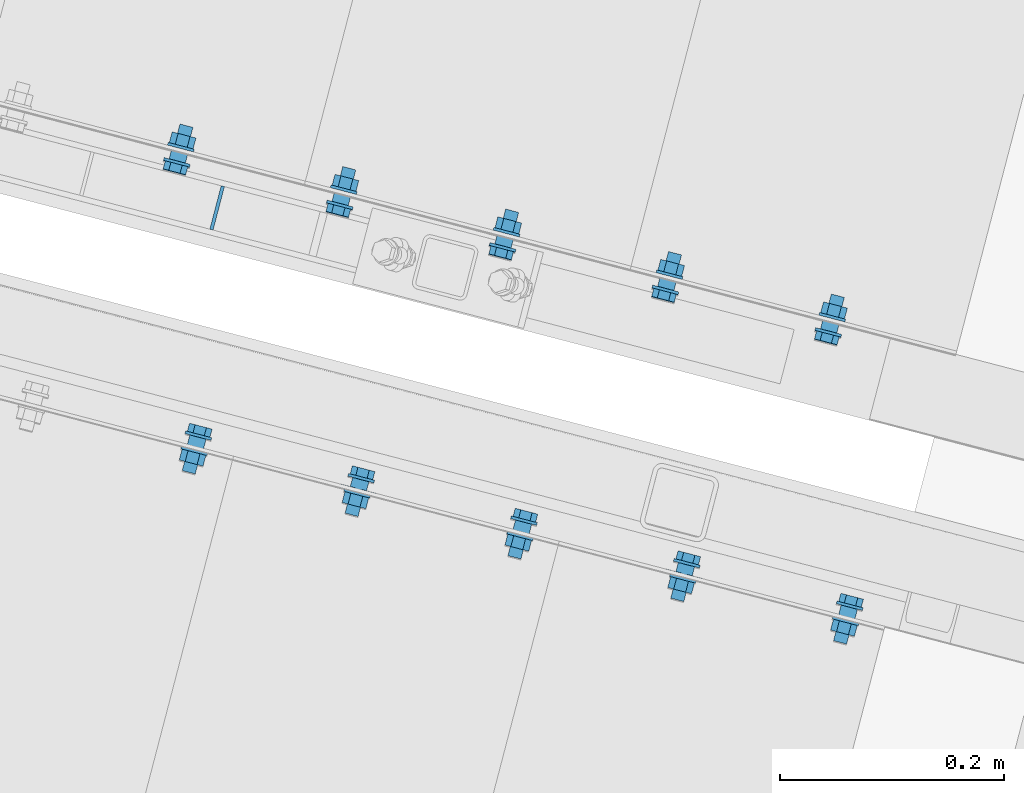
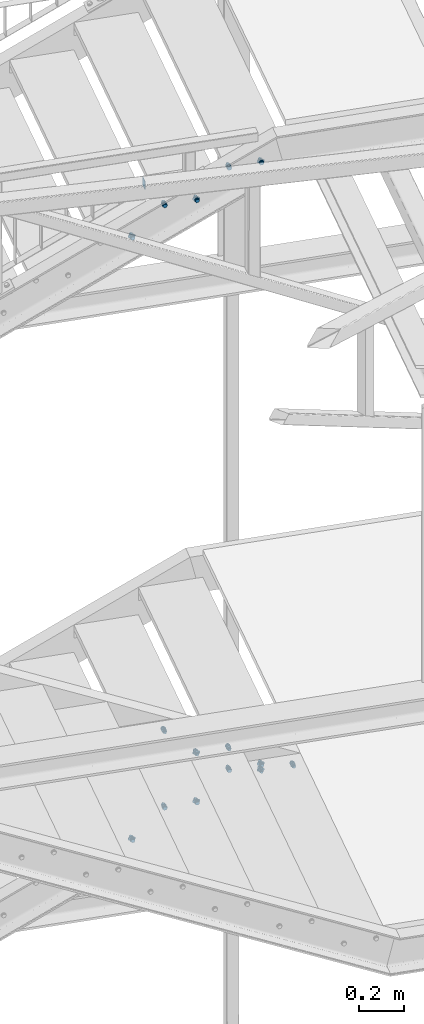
# One storey, part 144 of 169: 15 mechanical fasteners, 1 discrete accessory, 10 elements without a shape of their own.
"""IFC2X3 building model written with IfcOpenShell, lengths in millimetres."""

from ifc_helpers import new_model, si_unit, frame, frame_2d, origin_with_axes, origin_2d_with_axis, place, context, subcontext, project, spatial, polyline, circle_curve, parameter, trimmed, segment, composite_curve, circle, outline, extrude, clip, halfspace, source, transform, mapped, material, type_object, element, aggregate, save


model = new_model("IFC2X3")

# Units and contexts
model_context = context("Model", 3, precision=1e-05, world=origin_with_axes())
body_context = subcontext(model_context, "Body", "Model", "MODEL_VIEW")
ifc_project = project(units=[si_unit("LENGTHUNIT", "METRE", prefix="MILLI"), si_unit("AREAUNIT", "SQUARE_METRE"), si_unit("VOLUMEUNIT", "CUBIC_METRE"), si_unit("MASSUNIT", "GRAM", prefix="KILO"), si_unit("TIMEUNIT", "SECOND"), si_unit("PLANEANGLEUNIT", "RADIAN"), si_unit("SOLIDANGLEUNIT", "STERADIAN"), si_unit("THERMODYNAMICTEMPERATUREUNIT", "DEGREE_CELSIUS"), si_unit("LUMINOUSINTENSITYUNIT", "LUMEN")], contexts=[model_context])

# Site, building, storey
site_placement = place(None, origin_with_axes())
site = spatial("IfcSite", under=ifc_project, at=site_placement, Name="Undefined", CompositionType="ELEMENT")
building_placement = place(site_placement, origin_with_axes())
building = spatial("IfcBuilding", under=site, at=building_placement, Name="Undefined", CompositionType="ELEMENT")
storey_placement = place(building_placement, origin_with_axes())
storey = spatial("IfcBuildingStorey", under=building, at=storey_placement, Name="Undefined", CompositionType="ELEMENT", Elevation=0.0)

# Assembly, discrete accessory
assembly_1_placement = place(storey_placement, origin_with_axes())
assembly_1 = element("IfcElementAssembly", 1, at=assembly_1_placement, inside=storey, Name="Steel Assembly", AssemblyPlace="NOTDEFINED", PredefinedType="RIGID_FRAME")
ifc_material_1 = material(Name="STEEL/S235")
discrete_accessory_type_1 = type_object("IfcDiscreteAccessoryType", Name="PORĘCZ")
discrete_accessory_placement = place(assembly_1_placement, frame((-25384.8434200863, 6706.99141486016, 13867.1970313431), z_axis=(-0.967563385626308, 0.252628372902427, -1.72000000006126e-07), x_axis=(-3.45692487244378e-05, -0.000132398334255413, -0.999999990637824)))
discrete_accessory = element("IfcDiscreteAccessory", 2, at=discrete_accessory_placement, type_object=discrete_accessory_type_1, material=ifc_material_1, Name="PORĘCZ", ObjectType="BL40*3", context=body_context, shape_type="Clipping", body=[
    clip(clip(extrude(outline(polyline([(53.3229491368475, 20.000000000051), (53.3229488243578, -19.9999999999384), (8.49999989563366, -19.9999999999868), (8.50000020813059, 20.0000000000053), (53.3229491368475, 20.000000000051)])), frame((1.81898940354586e-12, -1.77635442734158e-15, -1.50000000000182), z_axis=(0.0, 0.0, 1.0), x_axis=(1.0, 0.0, 0.0)), (0.0, 0.0, 1.0), 3.0), halfspace(frame((8.50000786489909, 999.99999999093, -1.53340806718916e-08), z_axis=(1.0, 0.0, 0.0), x_axis=(-2.54700353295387e-10, 0.0, -1.0)), True)), halfspace(frame((53.6583669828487, 1000.0000000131, 0.670820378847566), z_axis=(-0.89442719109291, -3.87067713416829e-10, 0.44721359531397), x_axis=(0.44721359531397, 3.3177479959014e-10, 0.89442719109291)), True)),
])
aggregate(assembly_1, [discrete_accessory])

# Assembly, mechanical fastener
assembly_2_placement = place(storey_placement, origin_with_axes())
assembly_2 = element("IfcElementAssembly", 3, at=assembly_2_placement, inside=storey, Name="Steel Assembly", AssemblyPlace="NOTDEFINED", PredefinedType="RIGID_FRAME")
ifc_material_2 = material(Name="Undefined")
discrete_accessory_type_2 = type_object("IfcDiscreteAccessoryType", Name="Bolt assembly")
shared_shape_1 = source(origin_with_axes(), body_context, "Body", "SweptSolid", [
    extrude(circle(Radius=7.5, at=origin_2d_with_axis()), frame((0.0, -8.39999975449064, 0.0), z_axis=(0.0, 1.0, 0.0), x_axis=(1.0, 0.0, 0.0)), (0.0, 0.0, 1.0), 8.5),
    extrude(circle(Radius=7.5, at=origin_2d_with_axis()), frame((0.0, -0.100000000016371, 0.0), z_axis=(0.0, 1.0, 0.0), x_axis=(1.0, 0.0, 0.0)), (0.0, 0.0, 1.0), 3.1),
    extrude(outline(polyline([(10.39230484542, 0.0), (5.19615242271, 9.00000000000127), (-5.19615242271, 9.00000000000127), (-10.39230484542, 0.0), (-5.19615242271, -9.00000000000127), (5.19615242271, -9.00000000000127), (10.39230484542, 0.0)])), frame((0.0, -18.4999993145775, 0.0), z_axis=(0.0, 1.0, 0.0), x_axis=(1.0, 0.0, 0.0)), (0.0, 0.0, 1.0), 7.5),
    extrude(circle(Radius=6.0, at=origin_2d_with_axis()), frame((0.0, -10.9999999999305, 0.0), z_axis=(0.0, 1.0, 0.0), x_axis=(1.0, 0.0, 0.0)), (0.0, 0.0, 1.0), 35.0),
    extrude(circle(Radius=12.0, at=origin_2d_with_axis()), frame((0.0, -10.9999999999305, 0.0), z_axis=(0.0, 1.0, 0.0), x_axis=(1.0, 0.0, 0.0)), (0.0, 0.0, 1.0), 2.5),
    extrude(circle(Radius=12.0, at=origin_2d_with_axis()), frame((0.0, 2.99999999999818, 0.0), z_axis=(0.0, 1.0, 0.0), x_axis=(1.0, 0.0, 0.0)), (0.0, 0.0, 1.0), 2.5),
    extrude(outline(polyline([(10.96965511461, 0.0), (5.484827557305, 9.50000000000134), (-5.484827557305, 9.50000000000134), (-10.96965511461, 0.0), (-5.484827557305, -9.50000000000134), (5.484827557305, -9.50000000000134), (10.96965511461, 0.0)])), frame((0.0, 5.50000000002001, 0.0), z_axis=(0.0, 1.0, 0.0), x_axis=(1.0, 0.0, 0.0)), (0.0, 0.0, 1.0), 10.0),
])
mechanical_fastener_1_placement = place(assembly_2_placement, frame((-24726.4188173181, 6576.44240962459, 13850.0957858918), z_axis=(-2.54700353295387e-10, 0.0, -1.0), x_axis=(-0.967580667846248, 0.252562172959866, 0.0)))
mechanical_fastener_1 = element("IfcMechanicalFastener", 4, at=mechanical_fastener_1_placement, type_object=discrete_accessory_type_2, material=ifc_material_2, Name="Bolt assembly", NominalDiameter=12.0, NominalLength=35.0, context=body_context, shape_type="MappedRepresentation", body=[
    mapped(shared_shape_1, transform((264.999998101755, 3.26144800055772e-09, 24.9999997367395))),
])

assembly_3_placement = place(storey_placement, origin_with_axes())
assembly_3 = element("IfcElementAssembly", 5, at=assembly_3_placement, inside=storey, Name="Steel Assembly", AssemblyPlace="NOTDEFINED", PredefinedType="RIGID_FRAME")
mechanical_fastener_2_placement = place(assembly_3_placement, frame((-25016.6930210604, 6652.21106243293, 13700.0957858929), z_axis=(-2.54700353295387e-10, 0.0, -1.0), x_axis=(-0.967580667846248, 0.252562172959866, 0.0)))
mechanical_fastener_2 = element("IfcMechanicalFastener", 6, at=mechanical_fastener_2_placement, type_object=discrete_accessory_type_2, material=ifc_material_2, Name="Bolt assembly", NominalDiameter=12.0, NominalLength=35.0, context=body_context, shape_type="MappedRepresentation", body=[
    mapped(shared_shape_1, transform((264.999998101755, 3.26144800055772e-09, 24.9999997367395))),
])

assembly_4_placement = place(storey_placement, origin_with_axes())
assembly_4 = element("IfcElementAssembly", 7, at=assembly_4_placement, inside=storey, Name="Steel Assembly", AssemblyPlace="NOTDEFINED", PredefinedType="RIGID_FRAME")
mechanical_fastener_3_placement = place(assembly_4_placement, frame((-25660.4815070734, 6561.5397834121, 11000.3215824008), z_axis=(-2.54700353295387e-10, 0.0, -1.0), x_axis=(0.96754609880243, -0.252694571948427, 0.0)))
mechanical_fastener_3 = element("IfcMechanicalFastener", 8, at=mechanical_fastener_3_placement, type_object=discrete_accessory_type_2, material=ifc_material_2, Name="Bolt assembly", NominalDiameter=12.0, NominalLength=35.0, context=body_context, shape_type="MappedRepresentation", body=[
    mapped(shared_shape_1, transform((264.999998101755, 3.26144800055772e-09, 24.9999997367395))),
])
aggregate(assembly_4, [mechanical_fastener_3])

assembly_5_placement = place(storey_placement, origin_with_axes())
assembly_5 = element("IfcElementAssembly", 9, at=assembly_5_placement, inside=storey, Name="Steel Assembly", AssemblyPlace="NOTDEFINED", PredefinedType="RIGID_FRAME")
mechanical_fastener_4_placement = place(assembly_5_placement, frame((-25370.2176740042, 6485.73141105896, 10850.3215823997), z_axis=(-2.54700353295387e-10, 0.0, -1.0), x_axis=(0.96754609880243, -0.252694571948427, 0.0)))
mechanical_fastener_4 = element("IfcMechanicalFastener", 10, at=mechanical_fastener_4_placement, type_object=discrete_accessory_type_2, material=ifc_material_2, Name="Bolt assembly", NominalDiameter=12.0, NominalLength=35.0, context=body_context, shape_type="MappedRepresentation", body=[
    mapped(shared_shape_1, transform((264.999998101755, 3.26144800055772e-09, 24.9999997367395))),
])

assembly_6_placement = place(storey_placement, origin_with_axes())
assembly_6 = element("IfcElementAssembly", 11, at=assembly_6_placement, inside=storey, Name="Steel Assembly", AssemblyPlace="NOTDEFINED", PredefinedType="RIGID_FRAME")
mechanical_fastener_5_placement = place(assembly_6_placement, frame((-25079.9538409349, 6409.92303870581, 10700.3215823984), z_axis=(-2.54700353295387e-10, 0.0, -1.0), x_axis=(0.96754609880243, -0.252694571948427, 0.0)))
mechanical_fastener_5 = element("IfcMechanicalFastener", 12, at=mechanical_fastener_5_placement, type_object=discrete_accessory_type_2, material=ifc_material_2, Name="Bolt assembly", NominalDiameter=12.0, NominalLength=35.0, context=body_context, shape_type="MappedRepresentation", body=[
    mapped(shared_shape_1, transform((264.999998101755, 3.26144800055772e-09, 24.9999997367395))),
])

assembly_7_placement = place(storey_placement, origin_with_axes())
assembly_7 = element("IfcElementAssembly", 13, at=assembly_7_placement, inside=storey, Name="Steel Assembly", AssemblyPlace="NOTDEFINED", PredefinedType="RIGID_FRAME")
mechanical_fastener_6_placement = place(assembly_7_placement, frame((-24726.5328946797, 6576.00549464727, 10550.0958168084), z_axis=(-2.54700353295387e-10, 0.0, -1.0), x_axis=(-0.967580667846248, 0.252562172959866, 0.0)))
mechanical_fastener_6 = element("IfcMechanicalFastener", 14, at=mechanical_fastener_6_placement, type_object=discrete_accessory_type_2, material=ifc_material_2, Name="Bolt assembly", NominalDiameter=12.0, NominalLength=35.0, context=body_context, shape_type="MappedRepresentation", body=[
    mapped(shared_shape_1, transform((264.999998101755, 3.26144800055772e-09, 24.9999997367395))),
])

assembly_8_placement = place(storey_placement, origin_with_axes())
assembly_8 = element("IfcElementAssembly", 15, at=assembly_8_placement, inside=storey, Name="Steel Assembly", AssemblyPlace="NOTDEFINED", PredefinedType="RIGID_FRAME")
mechanical_fastener_7_placement = place(assembly_8_placement, frame((-25016.8070984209, 6651.77414745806, 10400.0958168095), z_axis=(-2.54700353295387e-10, 0.0, -1.0), x_axis=(-0.967580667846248, 0.252562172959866, 0.0)))
mechanical_fastener_7 = element("IfcMechanicalFastener", 16, at=mechanical_fastener_7_placement, type_object=discrete_accessory_type_2, material=ifc_material_2, Name="Bolt assembly", NominalDiameter=12.0, NominalLength=35.0, context=body_context, shape_type="MappedRepresentation", body=[
    mapped(shared_shape_1, transform((264.999998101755, 3.26144800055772e-09, 24.9999997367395))),
])

# Mechanical fastener
shared_shape_2 = source(origin_with_axes(), body_context, "Body", "SweptSolid", [
    extrude(circle(Radius=7.5, at=origin_2d_with_axis()), frame((0.0, -8.39999975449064, 0.0), z_axis=(0.0, 1.0, 0.0), x_axis=(1.0, 0.0, 0.0)), (0.0, 0.0, 1.0), 8.5),
    extrude(outline(composite_curve([segment(polyline([(-10.0, 7.5), (10.0, 7.5)]), True, "CONTINUOUS"), segment(trimmed(circle_curve(frame_2d((10.0, 0.0), x_axis=(0.0, 1.0)), 7.5), [parameter(0.0)], [parameter(3.14159265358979)], False, "PARAMETER"), True, "CONTINUOUS"), segment(polyline([(10.0, -7.5), (-10.0, -7.5)]), True, "CONTINUOUS"), segment(trimmed(circle_curve(frame_2d((-10.0, 0.0), x_axis=(0.0, -1.0)), 7.5), [parameter(0.0)], [parameter(3.14159265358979)], False, "PARAMETER"), True, "DISCONTINUOUS")], self_intersect=False)), frame((0.0, -0.100000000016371, 0.0), z_axis=(0.0, 1.0, 0.0), x_axis=(1.0, 0.0, 0.0)), (0.0, 0.0, 1.0), 3.1),
    extrude(outline(polyline([(10.39230484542, 0.0), (5.19615242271, 9.00000000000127), (-5.19615242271, 9.00000000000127), (-10.39230484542, 0.0), (-5.19615242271, -9.00000000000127), (5.19615242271, -9.00000000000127), (10.39230484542, 0.0)])), frame((0.0, -18.4999993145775, 0.0), z_axis=(0.0, 1.0, 0.0), x_axis=(1.0, 0.0, 0.0)), (0.0, 0.0, 1.0), 7.5),
    extrude(circle(Radius=6.0, at=origin_2d_with_axis()), frame((0.0, -10.9999999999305, 0.0), z_axis=(0.0, 1.0, 0.0), x_axis=(1.0, 0.0, 0.0)), (0.0, 0.0, 1.0), 35.0),
    extrude(circle(Radius=12.0, at=origin_2d_with_axis()), frame((0.0, -10.9999999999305, 0.0), z_axis=(0.0, 1.0, 0.0), x_axis=(1.0, 0.0, 0.0)), (0.0, 0.0, 1.0), 2.5),
    extrude(circle(Radius=12.0, at=origin_2d_with_axis()), frame((0.0, 2.99999999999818, 0.0), z_axis=(0.0, 1.0, 0.0), x_axis=(1.0, 0.0, 0.0)), (0.0, 0.0, 1.0), 2.5),
    extrude(outline(polyline([(10.96965511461, 0.0), (5.484827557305, 9.50000000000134), (-5.484827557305, 9.50000000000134), (-10.96965511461, 0.0), (-5.484827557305, -9.50000000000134), (5.484827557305, -9.50000000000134), (10.96965511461, 0.0)])), frame((0.0, 5.50000000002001, 0.0), z_axis=(0.0, 1.0, 0.0), x_axis=(1.0, 0.0, 0.0)), (0.0, 0.0, 1.0), 10.0),
])
mechanical_fastener_8_placement = place(assembly_2_placement, frame((-24726.4188173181, 6576.44240962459, 13850.0957858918), z_axis=(-2.54700353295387e-10, 0.0, -1.0), x_axis=(-0.967580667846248, 0.252562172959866, 0.0)))
mechanical_fastener_8 = element("IfcMechanicalFastener", 17, at=mechanical_fastener_8_placement, type_object=discrete_accessory_type_2, material=ifc_material_2, Name="Bolt assembly", NominalDiameter=12.0, NominalLength=35.0, context=body_context, shape_type="MappedRepresentation", body=[
    mapped(shared_shape_2, transform((115.000000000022, -4.04725142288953e-10, 25.0))),
])

aggregate(assembly_2, [mechanical_fastener_8, mechanical_fastener_1])

shared_shape_3 = source(origin_with_axes(), body_context, "Body", "SweptSolid", [
    extrude(circle(Radius=7.5, at=origin_2d_with_axis()), frame((0.0, -8.39999975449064, 0.0), z_axis=(0.0, 1.0, 0.0), x_axis=(1.0, 0.0, 0.0)), (0.0, 0.0, 1.0), 8.5),
    extrude(outline(composite_curve([segment(polyline([(-10.0, 7.5), (10.0, 7.5)]), True, "CONTINUOUS"), segment(trimmed(circle_curve(frame_2d((10.0, 0.0), x_axis=(0.0, 1.0)), 7.5), [parameter(0.0)], [parameter(3.14159265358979)], False, "PARAMETER"), True, "CONTINUOUS"), segment(polyline([(10.0, -7.5), (-10.0, -7.5)]), True, "CONTINUOUS"), segment(trimmed(circle_curve(frame_2d((-10.0, 0.0), x_axis=(0.0, -1.0)), 7.5), [parameter(0.0)], [parameter(3.14159265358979)], False, "PARAMETER"), True, "DISCONTINUOUS")], self_intersect=False)), frame((0.0, -0.100000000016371, 0.0), z_axis=(0.0, 1.0, 0.0), x_axis=(1.0, 0.0, 0.0)), (0.0, 0.0, 1.0), 3.1),
    extrude(outline(polyline([(10.39230484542, 0.0), (5.19615242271, 9.00000000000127), (-5.19615242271, 9.00000000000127), (-10.39230484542, 0.0), (-5.19615242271, -9.00000000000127), (5.19615242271, -9.00000000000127), (10.39230484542, 0.0)])), frame((0.0, -18.4999993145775, 0.0), z_axis=(0.0, 1.0, 0.0), x_axis=(1.0, 0.0, 0.0)), (0.0, 0.0, 1.0), 7.5),
    extrude(circle(Radius=6.0, at=origin_2d_with_axis()), frame((0.0, -10.9999999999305, 0.0), z_axis=(0.0, 1.0, 0.0), x_axis=(1.0, 0.0, 0.0)), (0.0, 0.0, 1.0), 35.0),
    extrude(circle(Radius=12.0, at=origin_2d_with_axis()), frame((0.0, -10.9999999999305, 0.0), z_axis=(0.0, 1.0, 0.0), x_axis=(1.0, 0.0, 0.0)), (0.0, 0.0, 1.0), 2.5),
    extrude(circle(Radius=12.0, at=origin_2d_with_axis()), frame((0.0, 2.99999999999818, 0.0), z_axis=(0.0, 1.0, 0.0), x_axis=(1.0, 0.0, 0.0)), (0.0, 0.0, 1.0), 2.5),
    extrude(outline(polyline([(10.96965511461, 0.0), (5.484827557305, 9.50000000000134), (-5.484827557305, 9.50000000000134), (-10.96965511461, 0.0), (-5.484827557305, -9.50000000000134), (5.484827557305, -9.50000000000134), (10.96965511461, 0.0)])), frame((0.0, 5.50000000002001, 0.0), z_axis=(0.0, 1.0, 0.0), x_axis=(1.0, 0.0, 0.0)), (0.0, 0.0, 1.0), 10.0),
])
mechanical_fastener_9_placement = place(assembly_3_placement, frame((-25016.6930210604, 6652.21106243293, 13700.0957858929), z_axis=(-2.54700353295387e-10, 0.0, -1.0), x_axis=(-0.967580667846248, 0.252562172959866, 0.0)))
mechanical_fastener_9 = element("IfcMechanicalFastener", 18, at=mechanical_fastener_9_placement, type_object=discrete_accessory_type_2, material=ifc_material_2, Name="Bolt assembly", NominalDiameter=12.0, NominalLength=35.0, context=body_context, shape_type="MappedRepresentation", body=[
    mapped(shared_shape_3, transform((115.000000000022, -4.04725142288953e-10, 25.0))),
])

aggregate(assembly_3, [mechanical_fastener_9, mechanical_fastener_2])

# Assembly, mechanical fastener
assembly_9_placement = place(storey_placement, origin_with_axes())
assembly_9 = element("IfcElementAssembly", 19, at=assembly_9_placement, inside=storey, Name="Steel Assembly", AssemblyPlace="NOTDEFINED", PredefinedType="RIGID_FRAME")
shared_shape_4 = source(origin_with_axes(), body_context, "Body", "SweptSolid", [
    extrude(circle(Radius=7.5, at=origin_2d_with_axis()), frame((0.0, -8.39999975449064, 0.0), z_axis=(0.0, 1.0, 0.0), x_axis=(1.0, 0.0, 0.0)), (0.0, 0.0, 1.0), 8.5),
    extrude(outline(composite_curve([segment(polyline([(-10.0, 7.5), (10.0, 7.5)]), True, "CONTINUOUS"), segment(trimmed(circle_curve(frame_2d((10.0, 0.0), x_axis=(0.0, 1.0)), 7.5), [parameter(0.0)], [parameter(3.14159265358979)], False, "PARAMETER"), True, "CONTINUOUS"), segment(polyline([(10.0, -7.5), (-10.0, -7.5)]), True, "CONTINUOUS"), segment(trimmed(circle_curve(frame_2d((-10.0, 0.0), x_axis=(0.0, -1.0)), 7.5), [parameter(0.0)], [parameter(3.14159265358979)], False, "PARAMETER"), True, "DISCONTINUOUS")], self_intersect=False)), frame((0.0, -0.100000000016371, 0.0), z_axis=(0.0, 1.0, 0.0), x_axis=(1.0, 0.0, 0.0)), (0.0, 0.0, 1.0), 3.1),
    extrude(outline(polyline([(10.39230484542, 0.0), (5.19615242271, 9.00000000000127), (-5.19615242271, 9.00000000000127), (-10.39230484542, 0.0), (-5.19615242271, -9.00000000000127), (5.19615242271, -9.00000000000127), (10.39230484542, 0.0)])), frame((0.0, -18.4999993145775, 0.0), z_axis=(0.0, 1.0, 0.0), x_axis=(1.0, 0.0, 0.0)), (0.0, 0.0, 1.0), 7.5),
    extrude(circle(Radius=6.0, at=origin_2d_with_axis()), frame((0.0, -10.9999999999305, 0.0), z_axis=(0.0, 1.0, 0.0), x_axis=(1.0, 0.0, 0.0)), (0.0, 0.0, 1.0), 35.0),
    extrude(circle(Radius=12.0, at=origin_2d_with_axis()), frame((0.0, -10.9999999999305, 0.0), z_axis=(0.0, 1.0, 0.0), x_axis=(1.0, 0.0, 0.0)), (0.0, 0.0, 1.0), 2.5),
    extrude(circle(Radius=12.0, at=origin_2d_with_axis()), frame((0.0, 2.99999999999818, 0.0), z_axis=(0.0, 1.0, 0.0), x_axis=(1.0, 0.0, 0.0)), (0.0, 0.0, 1.0), 2.5),
    extrude(outline(polyline([(10.96965511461, 0.0), (5.484827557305, 9.50000000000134), (-5.484827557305, 9.50000000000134), (-10.96965511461, 0.0), (-5.484827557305, -9.50000000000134), (5.484827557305, -9.50000000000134), (10.96965511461, 0.0)])), frame((0.0, 5.50000000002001, 0.0), z_axis=(0.0, 1.0, 0.0), x_axis=(1.0, 0.0, 0.0)), (0.0, 0.0, 1.0), 10.0),
])
mechanical_fastener_10_placement = place(assembly_9_placement, frame((-25306.9672248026, 6727.97971524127, 13550.0957858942), z_axis=(-2.54700353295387e-10, 0.0, -1.0), x_axis=(-0.967580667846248, 0.252562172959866, 0.0)))
mechanical_fastener_10 = element("IfcMechanicalFastener", 20, at=mechanical_fastener_10_placement, type_object=discrete_accessory_type_2, material=ifc_material_2, Name="Bolt assembly", NominalDiameter=12.0, NominalLength=35.0, context=body_context, shape_type="MappedRepresentation", body=[
    mapped(shared_shape_4, transform((115.000000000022, -4.04725142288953e-10, 25.0))),
])
aggregate(assembly_9, [mechanical_fastener_10])

# Mechanical fastener
shared_shape_5 = source(origin_with_axes(), body_context, "Body", "SweptSolid", [
    extrude(circle(Radius=7.5, at=origin_2d_with_axis()), frame((0.0, -8.39999975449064, 0.0), z_axis=(0.0, 1.0, 0.0), x_axis=(1.0, 0.0, 0.0)), (0.0, 0.0, 1.0), 8.5),
    extrude(outline(composite_curve([segment(polyline([(-10.0, 7.5), (10.0, 7.5)]), True, "CONTINUOUS"), segment(trimmed(circle_curve(frame_2d((10.0, 0.0), x_axis=(0.0, 1.0)), 7.5), [parameter(0.0)], [parameter(3.14159265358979)], False, "PARAMETER"), True, "CONTINUOUS"), segment(polyline([(10.0, -7.5), (-10.0, -7.5)]), True, "CONTINUOUS"), segment(trimmed(circle_curve(frame_2d((-10.0, 0.0), x_axis=(0.0, -1.0)), 7.5), [parameter(0.0)], [parameter(3.14159265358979)], False, "PARAMETER"), True, "DISCONTINUOUS")], self_intersect=False)), frame((0.0, -0.100000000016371, 0.0), z_axis=(0.0, 1.0, 0.0), x_axis=(1.0, 0.0, 0.0)), (0.0, 0.0, 1.0), 3.1),
    extrude(outline(polyline([(10.39230484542, 0.0), (5.19615242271, 9.00000000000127), (-5.19615242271, 9.00000000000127), (-10.39230484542, 0.0), (-5.19615242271, -9.00000000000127), (5.19615242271, -9.00000000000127), (10.39230484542, 0.0)])), frame((0.0, -18.4999993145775, 0.0), z_axis=(0.0, 1.0, 0.0), x_axis=(1.0, 0.0, 0.0)), (0.0, 0.0, 1.0), 7.5),
    extrude(circle(Radius=6.0, at=origin_2d_with_axis()), frame((0.0, -10.9999999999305, 0.0), z_axis=(0.0, 1.0, 0.0), x_axis=(1.0, 0.0, 0.0)), (0.0, 0.0, 1.0), 35.0),
    extrude(circle(Radius=12.0, at=origin_2d_with_axis()), frame((0.0, -10.9999999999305, 0.0), z_axis=(0.0, 1.0, 0.0), x_axis=(1.0, 0.0, 0.0)), (0.0, 0.0, 1.0), 2.5),
    extrude(circle(Radius=12.0, at=origin_2d_with_axis()), frame((0.0, 2.99999999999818, 0.0), z_axis=(0.0, 1.0, 0.0), x_axis=(1.0, 0.0, 0.0)), (0.0, 0.0, 1.0), 2.5),
    extrude(outline(polyline([(10.96965511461, 0.0), (5.484827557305, 9.50000000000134), (-5.484827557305, 9.50000000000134), (-10.96965511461, 0.0), (-5.484827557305, -9.50000000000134), (5.484827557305, -9.50000000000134), (10.96965511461, 0.0)])), frame((0.0, 5.50000000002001, 0.0), z_axis=(0.0, 1.0, 0.0), x_axis=(1.0, 0.0, 0.0)), (0.0, 0.0, 1.0), 10.0),
])
mechanical_fastener_11_placement = place(assembly_5_placement, frame((-25370.2176740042, 6485.73141105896, 10850.3215823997), z_axis=(-2.54700353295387e-10, 0.0, -1.0), x_axis=(0.96754609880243, -0.252694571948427, 0.0)))
mechanical_fastener_11 = element("IfcMechanicalFastener", 21, at=mechanical_fastener_11_placement, type_object=discrete_accessory_type_2, material=ifc_material_2, Name="Bolt assembly", NominalDiameter=12.0, NominalLength=35.0, context=body_context, shape_type="MappedRepresentation", body=[
    mapped(shared_shape_5, transform((115.000000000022, -4.04725142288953e-10, 25.0))),
])

aggregate(assembly_5, [mechanical_fastener_11, mechanical_fastener_4])

shared_shape_6 = source(origin_with_axes(), body_context, "Body", "SweptSolid", [
    extrude(circle(Radius=7.5, at=origin_2d_with_axis()), frame((0.0, -8.39999975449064, 0.0), z_axis=(0.0, 1.0, 0.0), x_axis=(1.0, 0.0, 0.0)), (0.0, 0.0, 1.0), 8.5),
    extrude(outline(composite_curve([segment(polyline([(-10.0, 7.5), (10.0, 7.5)]), True, "CONTINUOUS"), segment(trimmed(circle_curve(frame_2d((10.0, 0.0), x_axis=(0.0, 1.0)), 7.5), [parameter(0.0)], [parameter(3.14159265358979)], False, "PARAMETER"), True, "CONTINUOUS"), segment(polyline([(10.0, -7.5), (-10.0, -7.5)]), True, "CONTINUOUS"), segment(trimmed(circle_curve(frame_2d((-10.0, 0.0), x_axis=(0.0, -1.0)), 7.5), [parameter(0.0)], [parameter(3.14159265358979)], False, "PARAMETER"), True, "DISCONTINUOUS")], self_intersect=False)), frame((0.0, -0.100000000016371, 0.0), z_axis=(0.0, 1.0, 0.0), x_axis=(1.0, 0.0, 0.0)), (0.0, 0.0, 1.0), 3.1),
    extrude(outline(polyline([(10.39230484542, 0.0), (5.19615242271, 9.00000000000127), (-5.19615242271, 9.00000000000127), (-10.39230484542, 0.0), (-5.19615242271, -9.00000000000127), (5.19615242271, -9.00000000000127), (10.39230484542, 0.0)])), frame((0.0, -18.4999993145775, 0.0), z_axis=(0.0, 1.0, 0.0), x_axis=(1.0, 0.0, 0.0)), (0.0, 0.0, 1.0), 7.5),
    extrude(circle(Radius=6.0, at=origin_2d_with_axis()), frame((0.0, -10.9999999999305, 0.0), z_axis=(0.0, 1.0, 0.0), x_axis=(1.0, 0.0, 0.0)), (0.0, 0.0, 1.0), 35.0),
    extrude(circle(Radius=12.0, at=origin_2d_with_axis()), frame((0.0, -10.9999999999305, 0.0), z_axis=(0.0, 1.0, 0.0), x_axis=(1.0, 0.0, 0.0)), (0.0, 0.0, 1.0), 2.5),
    extrude(circle(Radius=12.0, at=origin_2d_with_axis()), frame((0.0, 2.99999999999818, 0.0), z_axis=(0.0, 1.0, 0.0), x_axis=(1.0, 0.0, 0.0)), (0.0, 0.0, 1.0), 2.5),
    extrude(outline(polyline([(10.96965511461, 0.0), (5.484827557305, 9.50000000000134), (-5.484827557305, 9.50000000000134), (-10.96965511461, 0.0), (-5.484827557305, -9.50000000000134), (5.484827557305, -9.50000000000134), (10.96965511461, 0.0)])), frame((0.0, 5.50000000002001, 0.0), z_axis=(0.0, 1.0, 0.0), x_axis=(1.0, 0.0, 0.0)), (0.0, 0.0, 1.0), 10.0),
])
mechanical_fastener_12_placement = place(assembly_6_placement, frame((-25079.9538409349, 6409.92303870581, 10700.3215823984), z_axis=(-2.54700353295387e-10, 0.0, -1.0), x_axis=(0.96754609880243, -0.252694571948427, 0.0)))
mechanical_fastener_12 = element("IfcMechanicalFastener", 22, at=mechanical_fastener_12_placement, type_object=discrete_accessory_type_2, material=ifc_material_2, Name="Bolt assembly", NominalDiameter=12.0, NominalLength=35.0, context=body_context, shape_type="MappedRepresentation", body=[
    mapped(shared_shape_6, transform((115.000000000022, -4.04725142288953e-10, 25.0))),
])

aggregate(assembly_6, [mechanical_fastener_12, mechanical_fastener_5])

shared_shape_7 = source(origin_with_axes(), body_context, "Body", "SweptSolid", [
    extrude(circle(Radius=7.5, at=origin_2d_with_axis()), frame((0.0, -8.39999975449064, 0.0), z_axis=(0.0, 1.0, 0.0), x_axis=(1.0, 0.0, 0.0)), (0.0, 0.0, 1.0), 8.5),
    extrude(outline(composite_curve([segment(polyline([(-10.0, 7.5), (10.0, 7.5)]), True, "CONTINUOUS"), segment(trimmed(circle_curve(frame_2d((10.0, 0.0), x_axis=(0.0, 1.0)), 7.5), [parameter(0.0)], [parameter(3.14159265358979)], False, "PARAMETER"), True, "CONTINUOUS"), segment(polyline([(10.0, -7.5), (-10.0, -7.5)]), True, "CONTINUOUS"), segment(trimmed(circle_curve(frame_2d((-10.0, 0.0), x_axis=(0.0, -1.0)), 7.5), [parameter(0.0)], [parameter(3.14159265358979)], False, "PARAMETER"), True, "DISCONTINUOUS")], self_intersect=False)), frame((0.0, -0.100000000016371, 0.0), z_axis=(0.0, 1.0, 0.0), x_axis=(1.0, 0.0, 0.0)), (0.0, 0.0, 1.0), 3.1),
    extrude(outline(polyline([(10.39230484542, 0.0), (5.19615242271, 9.00000000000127), (-5.19615242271, 9.00000000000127), (-10.39230484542, 0.0), (-5.19615242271, -9.00000000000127), (5.19615242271, -9.00000000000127), (10.39230484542, 0.0)])), frame((0.0, -18.4999993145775, 0.0), z_axis=(0.0, 1.0, 0.0), x_axis=(1.0, 0.0, 0.0)), (0.0, 0.0, 1.0), 7.5),
    extrude(circle(Radius=6.0, at=origin_2d_with_axis()), frame((0.0, -10.9999999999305, 0.0), z_axis=(0.0, 1.0, 0.0), x_axis=(1.0, 0.0, 0.0)), (0.0, 0.0, 1.0), 35.0),
    extrude(circle(Radius=12.0, at=origin_2d_with_axis()), frame((0.0, -10.9999999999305, 0.0), z_axis=(0.0, 1.0, 0.0), x_axis=(1.0, 0.0, 0.0)), (0.0, 0.0, 1.0), 2.5),
    extrude(circle(Radius=12.0, at=origin_2d_with_axis()), frame((0.0, 2.99999999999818, 0.0), z_axis=(0.0, 1.0, 0.0), x_axis=(1.0, 0.0, 0.0)), (0.0, 0.0, 1.0), 2.5),
    extrude(outline(polyline([(10.96965511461, 0.0), (5.484827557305, 9.50000000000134), (-5.484827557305, 9.50000000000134), (-10.96965511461, 0.0), (-5.484827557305, -9.50000000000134), (5.484827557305, -9.50000000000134), (10.96965511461, 0.0)])), frame((0.0, 5.50000000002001, 0.0), z_axis=(0.0, 1.0, 0.0), x_axis=(1.0, 0.0, 0.0)), (0.0, 0.0, 1.0), 10.0),
])
mechanical_fastener_13_placement = place(assembly_7_placement, frame((-24726.5328946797, 6576.00549464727, 10550.0958168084), z_axis=(-2.54700353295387e-10, 0.0, -1.0), x_axis=(-0.967580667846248, 0.252562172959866, 0.0)))
mechanical_fastener_13 = element("IfcMechanicalFastener", 23, at=mechanical_fastener_13_placement, type_object=discrete_accessory_type_2, material=ifc_material_2, Name="Bolt assembly", NominalDiameter=12.0, NominalLength=35.0, context=body_context, shape_type="MappedRepresentation", body=[
    mapped(shared_shape_7, transform((115.000000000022, -4.04725142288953e-10, 25.0))),
])

aggregate(assembly_7, [mechanical_fastener_13, mechanical_fastener_6])

shared_shape_8 = source(origin_with_axes(), body_context, "Body", "SweptSolid", [
    extrude(circle(Radius=7.5, at=origin_2d_with_axis()), frame((0.0, -8.39999975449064, 0.0), z_axis=(0.0, 1.0, 0.0), x_axis=(1.0, 0.0, 0.0)), (0.0, 0.0, 1.0), 8.5),
    extrude(outline(composite_curve([segment(polyline([(-10.0, 7.5), (10.0, 7.5)]), True, "CONTINUOUS"), segment(trimmed(circle_curve(frame_2d((10.0, 0.0), x_axis=(0.0, 1.0)), 7.5), [parameter(0.0)], [parameter(3.14159265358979)], False, "PARAMETER"), True, "CONTINUOUS"), segment(polyline([(10.0, -7.5), (-10.0, -7.5)]), True, "CONTINUOUS"), segment(trimmed(circle_curve(frame_2d((-10.0, 0.0), x_axis=(0.0, -1.0)), 7.5), [parameter(0.0)], [parameter(3.14159265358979)], False, "PARAMETER"), True, "DISCONTINUOUS")], self_intersect=False)), frame((0.0, -0.100000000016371, 0.0), z_axis=(0.0, 1.0, 0.0), x_axis=(1.0, 0.0, 0.0)), (0.0, 0.0, 1.0), 3.1),
    extrude(outline(polyline([(10.39230484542, 0.0), (5.19615242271, 9.00000000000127), (-5.19615242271, 9.00000000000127), (-10.39230484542, 0.0), (-5.19615242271, -9.00000000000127), (5.19615242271, -9.00000000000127), (10.39230484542, 0.0)])), frame((0.0, -18.4999993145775, 0.0), z_axis=(0.0, 1.0, 0.0), x_axis=(1.0, 0.0, 0.0)), (0.0, 0.0, 1.0), 7.5),
    extrude(circle(Radius=6.0, at=origin_2d_with_axis()), frame((0.0, -10.9999999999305, 0.0), z_axis=(0.0, 1.0, 0.0), x_axis=(1.0, 0.0, 0.0)), (0.0, 0.0, 1.0), 35.0),
    extrude(circle(Radius=12.0, at=origin_2d_with_axis()), frame((0.0, -10.9999999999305, 0.0), z_axis=(0.0, 1.0, 0.0), x_axis=(1.0, 0.0, 0.0)), (0.0, 0.0, 1.0), 2.5),
    extrude(circle(Radius=12.0, at=origin_2d_with_axis()), frame((0.0, 2.99999999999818, 0.0), z_axis=(0.0, 1.0, 0.0), x_axis=(1.0, 0.0, 0.0)), (0.0, 0.0, 1.0), 2.5),
    extrude(outline(polyline([(10.96965511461, 0.0), (5.484827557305, 9.50000000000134), (-5.484827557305, 9.50000000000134), (-10.96965511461, 0.0), (-5.484827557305, -9.50000000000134), (5.484827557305, -9.50000000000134), (10.96965511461, 0.0)])), frame((0.0, 5.50000000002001, 0.0), z_axis=(0.0, 1.0, 0.0), x_axis=(1.0, 0.0, 0.0)), (0.0, 0.0, 1.0), 10.0),
])
mechanical_fastener_14_placement = place(assembly_8_placement, frame((-25016.8070984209, 6651.77414745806, 10400.0958168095), z_axis=(-2.54700353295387e-10, 0.0, -1.0), x_axis=(-0.967580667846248, 0.252562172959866, 0.0)))
mechanical_fastener_14 = element("IfcMechanicalFastener", 24, at=mechanical_fastener_14_placement, type_object=discrete_accessory_type_2, material=ifc_material_2, Name="Bolt assembly", NominalDiameter=12.0, NominalLength=35.0, context=body_context, shape_type="MappedRepresentation", body=[
    mapped(shared_shape_8, transform((115.000000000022, -4.04725142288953e-10, 25.0))),
])

aggregate(assembly_8, [mechanical_fastener_14, mechanical_fastener_7])

# Assembly, mechanical fastener
assembly_10_placement = place(storey_placement, origin_with_axes())
assembly_10 = element("IfcElementAssembly", 25, at=assembly_10_placement, inside=storey, Name="Steel Assembly", AssemblyPlace="NOTDEFINED", PredefinedType="RIGID_FRAME")
shared_shape_9 = source(origin_with_axes(), body_context, "Body", "SweptSolid", [
    extrude(circle(Radius=7.5, at=origin_2d_with_axis()), frame((0.0, -8.39999975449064, 0.0), z_axis=(0.0, 1.0, 0.0), x_axis=(1.0, 0.0, 0.0)), (0.0, 0.0, 1.0), 8.5),
    extrude(outline(composite_curve([segment(polyline([(-10.0, 7.5), (10.0, 7.5)]), True, "CONTINUOUS"), segment(trimmed(circle_curve(frame_2d((10.0, 0.0), x_axis=(0.0, 1.0)), 7.5), [parameter(0.0)], [parameter(3.14159265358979)], False, "PARAMETER"), True, "CONTINUOUS"), segment(polyline([(10.0, -7.5), (-10.0, -7.5)]), True, "CONTINUOUS"), segment(trimmed(circle_curve(frame_2d((-10.0, 0.0), x_axis=(0.0, -1.0)), 7.5), [parameter(0.0)], [parameter(3.14159265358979)], False, "PARAMETER"), True, "DISCONTINUOUS")], self_intersect=False)), frame((0.0, -0.100000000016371, 0.0), z_axis=(0.0, 1.0, 0.0), x_axis=(1.0, 0.0, 0.0)), (0.0, 0.0, 1.0), 3.1),
    extrude(outline(polyline([(10.39230484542, 0.0), (5.19615242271, 9.00000000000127), (-5.19615242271, 9.00000000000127), (-10.39230484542, 0.0), (-5.19615242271, -9.00000000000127), (5.19615242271, -9.00000000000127), (10.39230484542, 0.0)])), frame((0.0, -18.4999993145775, 0.0), z_axis=(0.0, 1.0, 0.0), x_axis=(1.0, 0.0, 0.0)), (0.0, 0.0, 1.0), 7.5),
    extrude(circle(Radius=6.0, at=origin_2d_with_axis()), frame((0.0, -10.9999999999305, 0.0), z_axis=(0.0, 1.0, 0.0), x_axis=(1.0, 0.0, 0.0)), (0.0, 0.0, 1.0), 35.0),
    extrude(circle(Radius=12.0, at=origin_2d_with_axis()), frame((0.0, -10.9999999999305, 0.0), z_axis=(0.0, 1.0, 0.0), x_axis=(1.0, 0.0, 0.0)), (0.0, 0.0, 1.0), 2.5),
    extrude(circle(Radius=12.0, at=origin_2d_with_axis()), frame((0.0, 2.99999999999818, 0.0), z_axis=(0.0, 1.0, 0.0), x_axis=(1.0, 0.0, 0.0)), (0.0, 0.0, 1.0), 2.5),
    extrude(outline(polyline([(10.96965511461, 0.0), (5.484827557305, 9.50000000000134), (-5.484827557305, 9.50000000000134), (-10.96965511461, 0.0), (-5.484827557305, -9.50000000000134), (5.484827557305, -9.50000000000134), (10.96965511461, 0.0)])), frame((0.0, 5.50000000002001, 0.0), z_axis=(0.0, 1.0, 0.0), x_axis=(1.0, 0.0, 0.0)), (0.0, 0.0, 1.0), 10.0),
])
mechanical_fastener_15_placement = place(assembly_10_placement, frame((-25307.0813021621, 6727.54280026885, 10250.0958168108), z_axis=(-2.54700353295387e-10, 0.0, -1.0), x_axis=(-0.967580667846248, 0.252562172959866, 0.0)))
mechanical_fastener_15 = element("IfcMechanicalFastener", 26, at=mechanical_fastener_15_placement, type_object=discrete_accessory_type_2, material=ifc_material_2, Name="Bolt assembly", NominalDiameter=12.0, NominalLength=35.0, context=body_context, shape_type="MappedRepresentation", body=[
    mapped(shared_shape_9, transform((115.000000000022, -4.04725142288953e-10, 25.0))),
])
aggregate(assembly_10, [mechanical_fastener_15])

save(model, "model.ifc")
